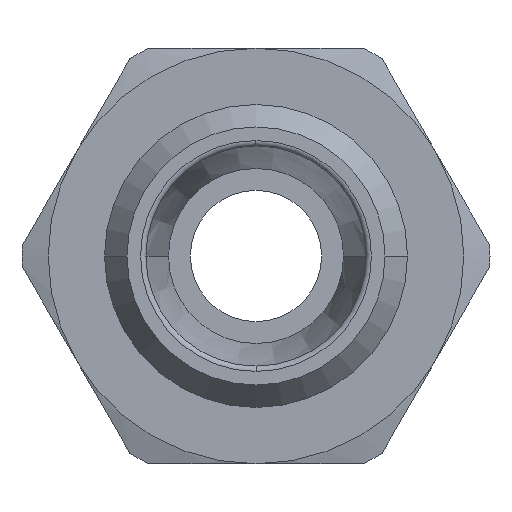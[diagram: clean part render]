
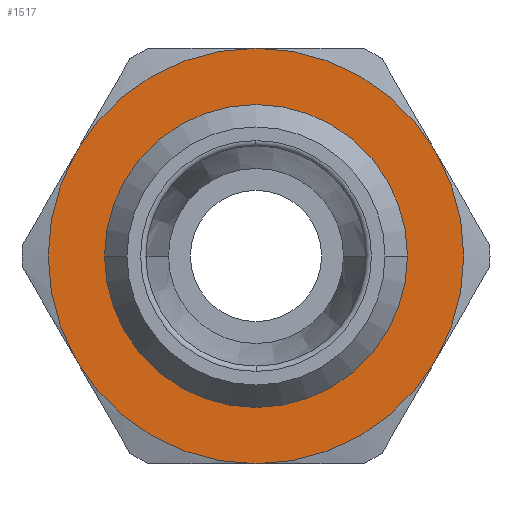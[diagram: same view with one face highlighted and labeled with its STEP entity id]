
A CAD part, left-side view. The second image highlights one B-rep face of the part: STEP entity #1517.
In plain terms, the highlighted planar face has unit normal (-1, 0, 0) as drawn and (0, 0, 1) by its records, which use the part's own axes.
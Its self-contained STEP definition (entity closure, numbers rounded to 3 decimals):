
#317=CARTESIAN_POINT('',(-6.8,0.,3.0));
#318=VERTEX_POINT('',#317);
#344=CARTESIAN_POINT('',(6.8,0.,3.0));
#345=VERTEX_POINT('',#344);
#353=CARTESIAN_POINT('',(0.,0.,3.0));
#354=DIRECTION('',(0.0,0.0,1.0));
#355=DIRECTION('',(-1.0,0.0,0.0));
#356=AXIS2_PLACEMENT_3D('',#353,#354,#355);
#357=CIRCLE('',#356,6.8);
#358=EDGE_CURVE('',#345,#318,#357,.T.);
#1397=CARTESIAN_POINT('',(0.,-6.8,3.));
#1398=VERTEX_POINT('',#1397);
#1399=CARTESIAN_POINT('',(0.,0.,3.0));
#1400=DIRECTION('',(0.0,0.0,1.0));
#1401=DIRECTION('',(-1.0,0.0,0.0));
#1402=AXIS2_PLACEMENT_3D('',#1399,#1400,#1401);
#1403=CIRCLE('',#1402,6.8);
#1404=EDGE_CURVE('',#318,#1398,#1403,.T.);
#1406=CARTESIAN_POINT('',(0.,0.,3.0));
#1407=DIRECTION('',(0.0,0.0,1.0));
#1408=DIRECTION('',(-1.0,0.0,0.0));
#1409=AXIS2_PLACEMENT_3D('',#1406,#1407,#1408);
#1410=CIRCLE('',#1409,6.8);
#1411=EDGE_CURVE('',#1398,#345,#1410,.T.);
#1451=CARTESIAN_POINT('',(0.,0.,3.0));
#1452=DIRECTION('',(0.0,0.0,1.0));
#1453=DIRECTION('',(1.0,0.0,0.0));
#1454=AXIS2_PLACEMENT_3D('',#1451,#1452,#1453);
#1455=PLANE('',#1454);
#1456=CARTESIAN_POINT('',(4.75,-8.227,3.));
#1457=VERTEX_POINT('',#1456);
#1458=CARTESIAN_POINT('',(9.5,0.0,3.));
#1459=VERTEX_POINT('',#1458);
#1460=CARTESIAN_POINT('',(0.,0.0,3.0));
#1461=DIRECTION('',(0.0,0.0,1.0));
#1462=DIRECTION('',(1.0,0.0,0.0));
#1463=AXIS2_PLACEMENT_3D('',#1460,#1461,#1462);
#1464=CIRCLE('',#1463,9.5);
#1465=EDGE_CURVE('',#1457,#1459,#1464,.T.);
#1466=ORIENTED_EDGE('',*,*,#1465,.T.);
#1467=CARTESIAN_POINT('',(4.75,8.227,3.));
#1468=VERTEX_POINT('',#1467);
#1469=CARTESIAN_POINT('',(0.,0.0,3.0));
#1470=DIRECTION('',(0.0,0.0,1.0));
#1471=DIRECTION('',(1.0,0.0,0.0));
#1472=AXIS2_PLACEMENT_3D('',#1469,#1470,#1471);
#1473=CIRCLE('',#1472,9.5);
#1474=EDGE_CURVE('',#1459,#1468,#1473,.T.);
#1475=ORIENTED_EDGE('',*,*,#1474,.T.);
#1476=CARTESIAN_POINT('',(-4.75,8.227,3.));
#1477=VERTEX_POINT('',#1476);
#1478=CARTESIAN_POINT('',(0.,0.0,3.0));
#1479=DIRECTION('',(0.0,0.0,1.0));
#1480=DIRECTION('',(1.0,0.0,0.0));
#1481=AXIS2_PLACEMENT_3D('',#1478,#1479,#1480);
#1482=CIRCLE('',#1481,9.5);
#1483=EDGE_CURVE('',#1468,#1477,#1482,.T.);
#1484=ORIENTED_EDGE('',*,*,#1483,.T.);
#1485=CARTESIAN_POINT('',(-9.5,0.,3.));
#1486=VERTEX_POINT('',#1485);
#1487=CARTESIAN_POINT('',(0.,0.0,3.0));
#1488=DIRECTION('',(0.0,0.0,1.0));
#1489=DIRECTION('',(1.0,0.0,0.0));
#1490=AXIS2_PLACEMENT_3D('',#1487,#1488,#1489);
#1491=CIRCLE('',#1490,9.5);
#1492=EDGE_CURVE('',#1477,#1486,#1491,.T.);
#1493=ORIENTED_EDGE('',*,*,#1492,.T.);
#1494=CARTESIAN_POINT('',(-4.75,-8.227,3.));
#1495=VERTEX_POINT('',#1494);
#1496=CARTESIAN_POINT('',(0.,0.0,3.0));
#1497=DIRECTION('',(0.0,0.0,1.0));
#1498=DIRECTION('',(1.0,0.0,0.0));
#1499=AXIS2_PLACEMENT_3D('',#1496,#1497,#1498);
#1500=CIRCLE('',#1499,9.5);
#1501=EDGE_CURVE('',#1486,#1495,#1500,.T.);
#1502=ORIENTED_EDGE('',*,*,#1501,.T.);
#1503=CARTESIAN_POINT('',(0.,0.0,3.0));
#1504=DIRECTION('',(0.0,0.0,1.0));
#1505=DIRECTION('',(1.0,0.0,0.0));
#1506=AXIS2_PLACEMENT_3D('',#1503,#1504,#1505);
#1507=CIRCLE('',#1506,9.5);
#1508=EDGE_CURVE('',#1495,#1457,#1507,.T.);
#1509=ORIENTED_EDGE('',*,*,#1508,.T.);
#1510=EDGE_LOOP('',(#1466,#1475,#1484,#1493,#1502,#1509));
#1511=FACE_OUTER_BOUND('',#1510,.T.);
#1512=ORIENTED_EDGE('',*,*,#1411,.F.);
#1513=ORIENTED_EDGE('',*,*,#1404,.F.);
#1514=ORIENTED_EDGE('',*,*,#358,.F.);
#1515=EDGE_LOOP('',(#1512,#1513,#1514));
#1516=FACE_BOUND('',#1515,.T.);
#1517=ADVANCED_FACE('',(#1511,#1516),#1455,.T.);
